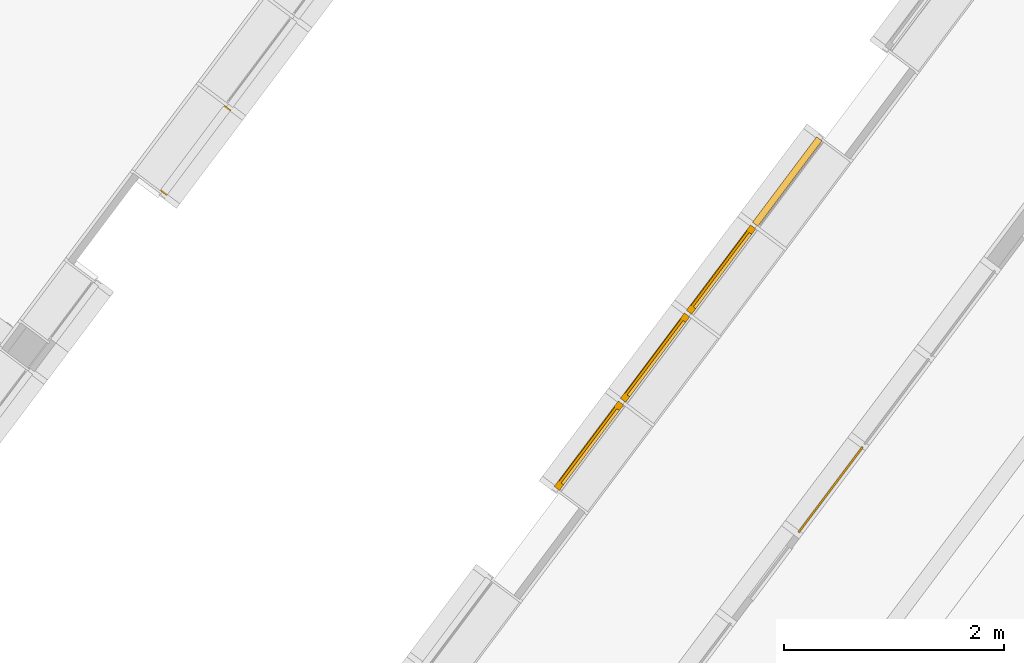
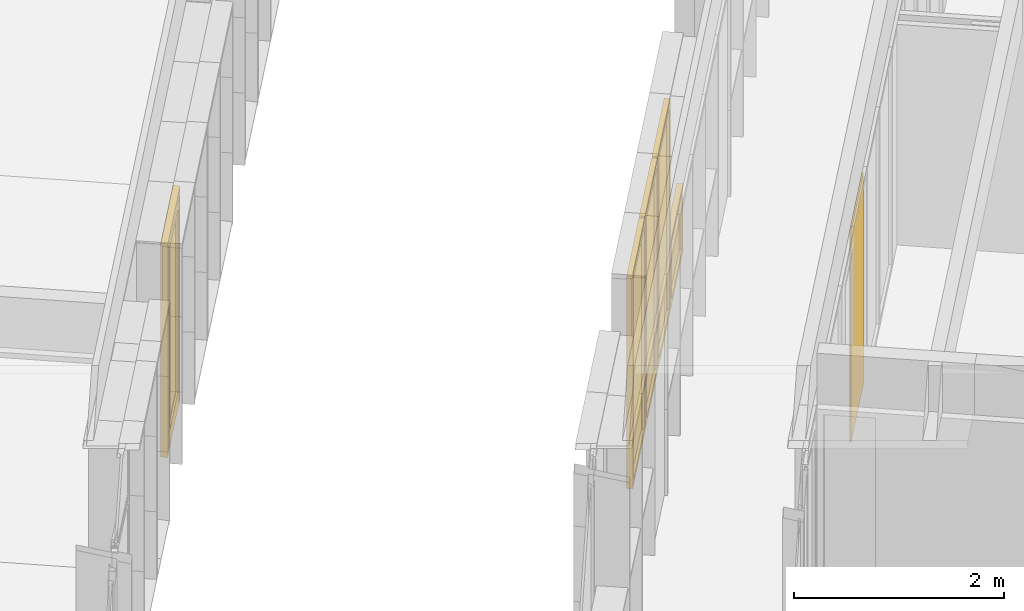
# One storey, part 183 of 243: 5 windows, 1 door, 3 elements without a shape of their own.
"""IFC2X3 building model written with IfcOpenShell, lengths in metres."""

import ifcopenshell
import ifcopenshell.guid

model = None  # the IFC model being written
_history = None  # IfcOwnerHistory: only IFC2X3 demands one
_inside = {}  # id of a spatial element -> (the spatial element, [elements in it])
_under = {}  # id of a project, library or spatial element -> (it, [spatial elements below it])
_declared = {}  # id of a project -> (the project, [libraries it declares])
_typed = {}  # id of a type object -> (the type object, [elements of that type])
_made_of = {}  # id of a material, layer set ... -> (it, [elements and type objects made of it])


def new_model(schema):
    """Start an empty IFC model of exactly this schema.

    Asked for "IFC4X3", IfcOpenShell would pick the latest addendum, in which some entities
    have other attributes; the version numbers below select the first issue.
    IFC2X3 requires an IfcOwnerHistory on every rooted entity: one is made here for all.
    """
    global model, _history
    if schema == "IFC4X3":
        model = ifcopenshell.file(schema_version=(4, 3, 0, 0))
    else:
        model = ifcopenshell.file(schema=schema)
    _inside.clear()
    _under.clear()
    _declared.clear()
    _typed.clear()
    _made_of.clear()
    _history = None
    if model.schema == "IFC2X3":
        org = make("IfcOrganization", Name="unknown")
        user = make(
            "IfcPersonAndOrganization",
            ThePerson=make("IfcPerson", FamilyName="unknown"),
            TheOrganization=org,
        )
        app = make(
            "IfcApplication",
            ApplicationDeveloper=org,
            Version="unknown",
            ApplicationFullName="unknown",
            ApplicationIdentifier="unknown",
        )
        _history = make(
            "IfcOwnerHistory",
            OwningUser=user,
            OwningApplication=app,
            ChangeAction="ADDED",
            CreationDate=0,
        )
    return model


def make(cls, **values):
    """One entity of the class cls with the attributes given. An attribute that is None is left unset."""
    return model.create_entity(
        cls, **{name: value for name, value in values.items() if value is not None}
    )


def entity(cls, *values):
    """Any entity or typed value of the class cls, its attributes in the order of the schema. None: left unset."""
    e = model.create_entity(cls)
    for i, value in enumerate(values):
        if value is not None:
            e[i] = value
    return e


def rooted(cls, **values):
    """An entity with a GlobalId (a new one), such as an element, a storey or a relation."""
    return make(cls, GlobalId=ifcopenshell.guid.new(), OwnerHistory=_history, **values)


def si_unit(unit_type, name, prefix=None):
    """IfcSIUnit, for example si_unit("LENGTHUNIT", "METRE", prefix="MILLI")."""
    return make("IfcSIUnit", UnitType=unit_type, Prefix=prefix, Name=name)


def converted_unit(unit_type, name, factor, base, dimensions=None, offset=None):
    """IfcConversionBasedUnit, such as the inch: factor (a typed value) times the base unit."""
    return make(
        "IfcConversionBasedUnit"
        if offset is None
        else "IfcConversionBasedUnitWithOffset",
        ConversionOffset=offset,
        Dimensions=None
        if dimensions is None
        else entity("IfcDimensionalExponents", *dimensions),
        UnitType=unit_type,
        Name=name,
        ConversionFactor=make(
            "IfcMeasureWithUnit", ValueComponent=factor, UnitComponent=base
        ),
    )


def derived_unit(unit_type, elements):
    """IfcDerivedUnit: a product of units, each with its exponent."""
    return make(
        "IfcDerivedUnit",
        Elements=[
            make("IfcDerivedUnitElement", Unit=unit, Exponent=power)
            for unit, power in elements
        ],
        UnitType=unit_type,
    )


def assignment(units):
    """IfcUnitAssignment: the units of a project."""
    return None if units is None else make("IfcUnitAssignment", Units=units)


def point(xyz):
    """IfcCartesianPoint."""
    return None if xyz is None else make("IfcCartesianPoint", Coordinates=xyz)


def direction(xyz):
    """IfcDirection."""
    return None if xyz is None else make("IfcDirection", DirectionRatios=xyz)


def frame(location, z_axis=None, x_axis=None):
    """IfcAxis2Placement3D, a coordinate frame: its origin and axes. An axis left out is left unset."""
    return make(
        "IfcAxis2Placement3D",
        Location=point(location),
        Axis=direction(z_axis),
        RefDirection=direction(x_axis),
    )


def frame_2d(location, x_axis=None):
    """IfcAxis2Placement2D, a coordinate frame in the plane: its origin and x axis."""
    return make(
        "IfcAxis2Placement2D", Location=point(location), RefDirection=direction(x_axis)
    )


def origin():
    """The frame at (0, 0, 0) with its axes left unset."""
    return frame((0.0, 0.0, 0.0))


def origin_2d_with_axis():
    """The frame at (0, 0) in the plane with the x axis (1, 0) written out."""
    return frame_2d((0.0, 0.0), x_axis=(1.0, 0.0))


def place(relative_to, where):
    """IfcLocalPlacement: puts the frame where relative to a parent placement (None: the world)."""
    return make(
        "IfcLocalPlacement", PlacementRelTo=relative_to, RelativePlacement=where
    )


def context(
    kind, dimensions, precision=None, world=None, true_north=None, identifier=None
):
    """IfcGeometricRepresentationContext, for example the 3D "Model" context."""
    return make(
        "IfcGeometricRepresentationContext",
        ContextIdentifier=identifier,
        ContextType=kind,
        CoordinateSpaceDimension=dimensions,
        Precision=precision,
        WorldCoordinateSystem=world,
        TrueNorth=true_north,
    )


def subcontext(parent, identifier, kind, view, scale=None):
    """IfcGeometricRepresentationSubContext, for example "Body" below "Model"."""
    return make(
        "IfcGeometricRepresentationSubContext",
        ContextIdentifier=identifier,
        ContextType=kind,
        ParentContext=parent,
        TargetScale=scale,
        TargetView=view,
    )


def project(units=None, contexts=None):
    """IfcProject with its units and contexts."""
    return rooted(
        "IfcProject",
        Name="project",
        RepresentationContexts=contexts,
        UnitsInContext=assignment(units),
    )


def spatial(cls, under=None, at=None, **own):
    """A site, building, storey or space (cls), placed at a placement, below another one or the project."""
    s = rooted(cls, ObjectPlacement=at, **own)
    if under is not None:
        _under.setdefault(under.id(), (under, []))[1].append(s)
    return s


def profile(cls, at=None, kind="AREA", **sizes):
    """A parametric profile (cls). Its sizes go by their IFC names, for example OverallWidth=200.0."""
    return make(cls, ProfileType=kind, Position=at, **sizes)


def rectangle(**sizes):
    """IfcRectangleProfileDef."""
    return profile("IfcRectangleProfileDef", **sizes)


def extrude(swept, where, along, depth):
    """IfcExtrudedAreaSolid: the profile swept, set in the frame where, extruded along a direction by depth."""
    return make(
        "IfcExtrudedAreaSolid",
        SweptArea=swept,
        Position=where,
        ExtrudedDirection=direction(along),
        Depth=depth,
    )


def faces_of(points, faces, orient=None, outer=None):
    """IfcFace entities. A face is a list of loops; a loop is a list of indices into points, from 0.

    orient and outer hold one flag for each loop. By default every Orientation is true, the
    first loop of a face is its IfcFaceOuterBound and the others are IfcFaceBound.
    """
    made = []
    for i, loops in enumerate(faces):
        bounds = []
        for j, loop in enumerate(loops):
            is_outer = j == 0 if outer is None else outer[i][j]
            bounds.append(
                make(
                    "IfcFaceOuterBound" if is_outer else "IfcFaceBound",
                    Bound=make("IfcPolyLoop", Polygon=[points[k] for k in loop]),
                    Orientation=True if orient is None else orient[i][j],
                )
            )
        made.append(make("IfcFace", Bounds=bounds))
    return made


def faceted_brep(points, faces, orient=None, outer=None, voids=None):
    """IfcFacetedBrep: a solid bounded by flat faces; with voids (closed shells), ...WithVoids."""
    shared = [point(p) for p in points]
    hull = make("IfcClosedShell", CfsFaces=faces_of(shared, faces, orient, outer))
    if voids is None:
        return make("IfcFacetedBrep", Outer=hull)
    return make(
        "IfcFacetedBrepWithVoids",
        Outer=hull,
        Voids=[
            make(cls, CfsFaces=faces_of(shared, fs, o, b)) for cls, fs, o, b in voids
        ],
    )


def shape(context_of_items, identifier, shape_type, items):
    """IfcShapeRepresentation: the items that make up one representation, for example the "Body"."""
    return make(
        "IfcShapeRepresentation",
        ContextOfItems=context_of_items,
        RepresentationIdentifier=identifier,
        RepresentationType=shape_type,
        Items=items,
    )


def source(mapping_origin, context_of_items, identifier, shape_type, items):
    """IfcRepresentationMap: a shape defined once, which mapped items show again and again."""
    return make(
        "IfcRepresentationMap",
        MappingOrigin=mapping_origin,
        MappedRepresentation=shape(context_of_items, identifier, shape_type, items),
    )


def transform(
    local_origin,
    x_axis=None,
    y_axis=None,
    z_axis=None,
    scale=None,
    scale2=None,
    scale3=None,
    uniform=True,
):
    """IfcCartesianTransformationOperator3D, or its non-uniform kind. x_axis, y_axis, z_axis: its Axis1, 2, 3."""
    if uniform:
        return make(
            "IfcCartesianTransformationOperator3D",
            Axis1=direction(x_axis),
            Axis2=direction(y_axis),
            LocalOrigin=point(local_origin),
            Scale=scale,
            Axis3=direction(z_axis),
        )
    return make(
        "IfcCartesianTransformationOperator3DnonUniform",
        Axis1=direction(x_axis),
        Axis2=direction(y_axis),
        LocalOrigin=point(local_origin),
        Scale=scale,
        Axis3=direction(z_axis),
        Scale2=scale2,
        Scale3=scale3,
    )


def mapped(mapping_source, mapping_target):
    """IfcMappedItem: shows the shape of a source again, moved by a transform."""
    return make(
        "IfcMappedItem", MappingSource=mapping_source, MappingTarget=mapping_target
    )


def material(Name=None, Category=None):
    """IfcMaterial."""
    return make("IfcMaterial", Name=Name, Category=Category)


def material_list(materials):
    """IfcMaterialList."""
    return make("IfcMaterialList", Materials=materials)


def made_of(thing, what):
    """Note that an element or type object is made of a material, layer set ...; save() writes the relation."""
    if what is not None:
        _made_of.setdefault(what.id(), (what, []))[1].append(thing)
    return thing


def type_object(cls, material=None, **own):
    """A type object (cls), such as IfcWallType, which elements share."""
    return made_of(rooted(cls, **own), material)


def type_shapes(of_type, sources):
    """Give a type object the sources (RepresentationMaps) that its elements show as mapped items."""
    of_type.RepresentationMaps = sources


def element(
    cls,
    number,
    at=None,
    inside=None,
    cuts=None,
    type_object=None,
    material=None,
    context=None,
    identifier="Body",
    shape_type=None,
    held_by="IfcProductDefinitionShape",
    body=None,
    shapes=None,
    **own,
):
    """One element of the class cls, such as IfcWall. Its Tag is "e" and its number.

    at: its placement. inside: the storey or other place that contains it. cuts: it is an
    opening in that element (IfcRelVoidsElement). A single representation is given by context,
    identifier, shape_type and body (its items); several are given by shapes. held_by: the class
    of the entity that holds the representations. save() writes the other relations.
    """
    e = rooted(cls, Tag="e%d" % number, ObjectPlacement=at, **own)
    if body is not None:
        shapes = [shape(context, identifier, shape_type, body)]
    if shapes is not None:
        e.Representation = make(held_by, Representations=shapes)
    if inside is not None:
        _inside.setdefault(inside.id(), (inside, []))[1].append(e)
    if cuts is not None:
        rooted(
            "IfcRelVoidsElement", RelatingBuildingElement=cuts, RelatedOpeningElement=e
        )
    if type_object is not None:
        _typed.setdefault(type_object.id(), (type_object, []))[1].append(e)
    return made_of(e, material)


def aggregate(whole, parts):
    """IfcRelAggregates: a whole, such as a stair, and the parts it consists of."""
    return rooted("IfcRelAggregates", RelatingObject=whole, RelatedObjects=parts)


def save(model, path):
    """Write the relations noted so far, then the file.

    IfcRelAggregates (storeys below a building ...), IfcRelContainedInSpatialStructure (elements
    in a storey), IfcRelDefinesByType, IfcRelAssociatesMaterial and IfcRelDeclares: one each for
    every whole, place, type object, material and project.
    """
    for whole, parts in _under.values():
        aggregate(whole, parts)
    for where, things in _inside.values():
        rooted(
            "IfcRelContainedInSpatialStructure",
            RelatedElements=things,
            RelatingStructure=where,
        )
    for kind, things in _typed.values():
        rooted("IfcRelDefinesByType", RelatedObjects=things, RelatingType=kind)
    for what, things in _made_of.values():
        rooted("IfcRelAssociatesMaterial", RelatedObjects=things, RelatingMaterial=what)
    for by, libraries in _declared.values():
        rooted("IfcRelDeclares", RelatingContext=by, RelatedDefinitions=libraries)
    model.write(path)


model = new_model("IFC2X3")

# Units and contexts
model_context = context("Model", 3, precision=1e-05, world=origin(), true_north=direction((6.123031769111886e-17, 1.0)))
body_context = subcontext(model_context, "Body", "Model", "MODEL_VIEW")
ifc_project = project(units=[si_unit("LENGTHUNIT", "METRE"), si_unit("AREAUNIT", "SQUARE_METRE"), si_unit("VOLUMEUNIT", "CUBIC_METRE"), converted_unit("PLANEANGLEUNIT", "DEGREE", entity("IfcRatioMeasure", 0.017453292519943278), si_unit("PLANEANGLEUNIT", "RADIAN"), dimensions=[0, 0, 0, 0, 0, 0, 0]), si_unit("MASSUNIT", "GRAM", prefix="KILO"), derived_unit("MASSDENSITYUNIT", [(si_unit("MASSUNIT", "GRAM", prefix="KILO"), 1), (si_unit("LENGTHUNIT", "METRE"), -3)]), derived_unit("IONCONCENTRATIONUNIT", [(si_unit("MASSUNIT", "GRAM", prefix="KILO"), 1), (si_unit("LENGTHUNIT", "METRE"), -3)]), derived_unit("MOMENTOFINERTIAUNIT", [(si_unit("LENGTHUNIT", "METRE"), 4)]), si_unit("TIMEUNIT", "SECOND"), si_unit("FREQUENCYUNIT", "HERTZ"), si_unit("THERMODYNAMICTEMPERATUREUNIT", "DEGREE_CELSIUS"), derived_unit("THERMALTRANSMITTANCEUNIT", [(si_unit("MASSUNIT", "GRAM", prefix="KILO"), 1), (si_unit("THERMODYNAMICTEMPERATUREUNIT", "KELVIN"), -1), (si_unit("TIMEUNIT", "SECOND"), -3)]), derived_unit("THERMALCONDUCTANCEUNIT", [(si_unit("MASSUNIT", "GRAM", prefix="KILO"), 1), (si_unit("THERMODYNAMICTEMPERATUREUNIT", "KELVIN"), -1), (si_unit("TIMEUNIT", "SECOND"), -3), (si_unit("LENGTHUNIT", "METRE"), 1)]), derived_unit("VOLUMETRICFLOWRATEUNIT", [(si_unit("LENGTHUNIT", "METRE"), 3), (si_unit("TIMEUNIT", "SECOND"), -1)]), derived_unit("MASSFLOWRATEUNIT", [(si_unit("MASSUNIT", "GRAM", prefix="KILO"), 1), (si_unit("TIMEUNIT", "SECOND"), -1)]), derived_unit("ROTATIONALFREQUENCYUNIT", [(si_unit("TIMEUNIT", "SECOND"), -1)]), si_unit("ELECTRICCURRENTUNIT", "AMPERE"), si_unit("ELECTRICVOLTAGEUNIT", "VOLT"), si_unit("POWERUNIT", "WATT"), si_unit("FORCEUNIT", "NEWTON", prefix="KILO"), si_unit("ILLUMINANCEUNIT", "LUX"), si_unit("LUMINOUSFLUXUNIT", "LUMEN"), si_unit("LUMINOUSINTENSITYUNIT", "CANDELA"), derived_unit("USERDEFINED", [(si_unit("MASSUNIT", "GRAM", prefix="KILO"), -1), (si_unit("LENGTHUNIT", "METRE"), -2), (si_unit("TIMEUNIT", "SECOND"), 3), (si_unit("LUMINOUSFLUXUNIT", "LUMEN"), 1)]), derived_unit("USERDEFINED", [(si_unit("MASSUNIT", "GRAM", prefix="KILO"), 1), (si_unit("TIMEUNIT", "SECOND"), -3), (si_unit("LENGTHUNIT", "METRE"), 3), (si_unit("ELECTRICCURRENTUNIT", "AMPERE"), -2)]), derived_unit("SOUNDPOWERUNIT", [(si_unit("MASSUNIT", "GRAM", prefix="KILO"), 1), (si_unit("TIMEUNIT", "SECOND"), -3), (si_unit("LENGTHUNIT", "METRE"), 2)]), derived_unit("SOUNDPRESSUREUNIT", [(si_unit("MASSUNIT", "GRAM", prefix="KILO"), 1), (si_unit("LENGTHUNIT", "METRE"), -1), (si_unit("TIMEUNIT", "SECOND"), -2)]), derived_unit("LINEARVELOCITYUNIT", [(si_unit("LENGTHUNIT", "METRE"), 1), (si_unit("TIMEUNIT", "SECOND"), -1)]), si_unit("PRESSUREUNIT", "PASCAL"), derived_unit("USERDEFINED", [(si_unit("MASSUNIT", "GRAM", prefix="KILO"), 1), (si_unit("LENGTHUNIT", "METRE"), -2), (si_unit("TIMEUNIT", "SECOND"), -2)]), derived_unit("LINEARFORCEUNIT", [(si_unit("MASSUNIT", "GRAM", prefix="KILO"), 1), (si_unit("TIMEUNIT", "SECOND"), -2)]), derived_unit("PLANARFORCEUNIT", [(si_unit("MASSUNIT", "GRAM", prefix="KILO"), 1), (si_unit("LENGTHUNIT", "METRE"), -1), (si_unit("TIMEUNIT", "SECOND"), -2)]), derived_unit("SPECIFICHEATCAPACITYUNIT", [(si_unit("THERMODYNAMICTEMPERATUREUNIT", "KELVIN"), -1), (si_unit("LENGTHUNIT", "METRE"), 2), (si_unit("TIMEUNIT", "SECOND"), -2)]), derived_unit("HEATINGVALUEUNIT", [(si_unit("LENGTHUNIT", "METRE"), 2), (si_unit("TIMEUNIT", "SECOND"), -2)]), derived_unit("VAPORPERMEABILITYUNIT", [(si_unit("LENGTHUNIT", "METRE"), -1), (si_unit("TIMEUNIT", "SECOND"), 1)]), derived_unit("DYNAMICVISCOSITYUNIT", [(si_unit("MASSUNIT", "GRAM", prefix="KILO"), 1), (si_unit("TIMEUNIT", "SECOND"), -1), (si_unit("LENGTHUNIT", "METRE"), -1)]), derived_unit("THERMALEXPANSIONCOEFFICIENTUNIT", [(si_unit("THERMODYNAMICTEMPERATUREUNIT", "KELVIN"), -1)]), derived_unit("MODULUSOFELASTICITYUNIT", [(si_unit("MASSUNIT", "GRAM", prefix="KILO"), 1), (si_unit("LENGTHUNIT", "METRE"), -1), (si_unit("TIMEUNIT", "SECOND"), -2)]), derived_unit("ISOTHERMALMOISTURECAPACITYUNIT", [(si_unit("LENGTHUNIT", "METRE"), 3), (si_unit("MASSUNIT", "GRAM", prefix="KILO"), -1)]), derived_unit("MOISTUREDIFFUSIVITYUNIT", [(si_unit("TIMEUNIT", "SECOND"), -1), (si_unit("LENGTHUNIT", "METRE"), 2)])], contexts=[model_context])

# Site, building, storey
site_placement = place(None, frame((0.0, 0.0, 235.0), z_axis=(0.0, 0.0, 1.0), x_axis=(-0.7996477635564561, 0.6004693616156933, 0.0)))
site = spatial("IfcSite", under=ifc_project, at=site_placement, Name="Default", CompositionType="ELEMENT")
building_placement = place(site_placement, origin())
building = spatial("IfcBuilding", under=site, at=building_placement, CompositionType="ELEMENT")
storey_placement = place(building_placement, origin())
storey = spatial("IfcBuildingStorey", under=building, at=storey_placement, Name="P0- Escola", CompositionType="ELEMENT", Elevation=0.0)

# Curtain wall, window
curtain_wall_type_1 = type_object("IfcCurtainWallType", Name="Muro cortina:MC- INT- a1", PredefinedType="NOTDEFINED")
curtain_wall_1_placement = place(storey_placement, origin())
curtain_wall_1 = element("IfcCurtainWall", 1, at=curtain_wall_1_placement, inside=storey, type_object=curtain_wall_type_1, Name="Muro cortina:MC- INT- a1", ObjectType="Muro cortina:MC- INT- a1")
ifc_material_1 = material(Name="_Vidre")
window_style_1 = type_object("IfcWindowStyle", Name="MC- Fusta- vidre fix:MC- Fusta- vidre fix", ConstructionType="NOTDEFINED", OperationType="NOTDEFINED", ParameterTakesPrecedence=False, Sizeable=False, material=ifc_material_1)
shared_shape_1 = source(origin(), body_context, "Body", "SweptSolid", [
    extrude(rectangle(XDim=0.9699999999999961, YDim=0.015999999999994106, at=origin_2d_with_axis()), frame((0.0, 0.0, 0.0), z_axis=(0.0, 0.0, 1.0), x_axis=(-1.0, 0.0, 0.0)), (0.0, 0.0, 1.0), 2.46),
])
type_shapes(window_style_1, [shared_shape_1])
window_1_placement = place(curtain_wall_1_placement, frame((60.02014768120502, -26.915189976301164, 0.045000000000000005), z_axis=(0.0, 0.0, 1.0), x_axis=(0.0, -1.0, 0.0)))
window_1 = element("IfcWindow", 2, at=window_1_placement, type_object=window_style_1, material=ifc_material_1, Name="MC- Fusta- vidre fix:MC- Fusta- vidre fix", ObjectType="MC- Fusta- vidre fix:MC- Fusta- vidre fix", OverallHeight=2.46, OverallWidth=0.9699999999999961, context=body_context, shape_type="MappedRepresentation", body=[
    mapped(shared_shape_1, transform((0.0, 0.0, 0.0), scale=1.0)),
])
aggregate(curtain_wall_1, [window_1])

# Curtain wall, door
curtain_wall_type_2 = type_object("IfcCurtainWallType", Name="Muro cortina:MC- EXT- MC2", PredefinedType="NOTDEFINED")
curtain_wall_2_placement = place(storey_placement, origin())
curtain_wall_2 = element("IfcCurtainWall", 3, at=curtain_wall_2_placement, inside=storey, type_object=curtain_wall_type_2, Name="Muro cortina:MC- EXT- MC2", ObjectType="Muro cortina:MC- EXT- MC2")
ifc_material_2 = material(Name="_Alumini- T1- Perfil")
ifc_material_list_1 = material_list([ifc_material_2, ifc_material_1])
door_style = type_object("IfcDoorStyle", Name="MC- Alu- Conjunt porta- 70x60 cm- +15cm- obertura int:MC- Alu- Conjunt porta- 70x60 cm- +15cm- obertura int", ConstructionType="NOTDEFINED", OperationType="NOTDEFINED", ParameterTakesPrecedence=False, Sizeable=False, material=ifc_material_list_1)
shared_shape_2 = source(origin(), body_context, "Body", "Brep", [
    faceted_brep([(0.411699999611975, 0.0, 0.024000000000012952), (0.411699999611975, -0.0656997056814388, 0.024000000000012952), (-0.41169999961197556, -0.06569970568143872, 0.024000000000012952), (-0.41169999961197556, 0.0, 0.024000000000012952), (0.41169999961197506, -0.0656997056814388, 2.410449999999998), (0.41169999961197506, 0.0, 2.410449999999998), (-0.41169999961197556, -0.06569970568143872, 2.410449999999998), (-0.4356999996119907, -0.06569970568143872, 0.0), (-0.4356999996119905, -0.06569970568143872, 2.4344500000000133), (0.4356999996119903, -0.06569970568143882, 2.4344500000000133), (0.4356999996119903, -0.0656997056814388, 0.0), (-0.41169999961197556, 0.0, 2.410449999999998), (0.33509999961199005, 0.0, 2.333850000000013), (-0.33509999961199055, 0.0, 2.3338500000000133), (-0.33509999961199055, 0.0, 0.20400000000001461), (0.33509999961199, 0.0, 0.20400000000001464), (-0.4356999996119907, -0.06999970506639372, 2.4344500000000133), (-0.4356999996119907, -0.0699997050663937, 0.0), (0.4356999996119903, -0.06999970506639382, 0.0), (0.43569999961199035, -0.06999970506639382, 2.4344500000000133), (-0.33509999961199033, -0.06999970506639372, 2.333850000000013), (0.33509999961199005, -0.06999970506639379, 2.333850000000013), (0.33509999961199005, -0.0699997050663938, 0.20400000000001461), (-0.33509999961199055, -0.06999970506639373, 0.20400000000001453), (-0.3350999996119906, -0.06449970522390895, 2.333850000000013), (-0.3350999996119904, -0.06449970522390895, 0.20400000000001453), (0.33509999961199, -0.06449970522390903, 0.20400000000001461), (0.33509999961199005, -0.06449970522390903, 2.333850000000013), (-0.36010000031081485, -0.06449970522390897, 2.3588500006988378), (0.3601000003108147, -0.06449970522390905, 2.3588500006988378), (0.3601000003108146, -0.06449970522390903, 0.17899999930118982), (-0.36010000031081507, -0.06449970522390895, 0.17899999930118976), (-0.3601000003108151, -0.018999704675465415, 2.3588500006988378), (-0.36010000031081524, -0.01899970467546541, 0.17899999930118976), (0.36010000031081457, -0.01899970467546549, 0.17899999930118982), (0.36010000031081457, -0.01899970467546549, 2.3588500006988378), (-0.33509999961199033, -0.018999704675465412, 2.333850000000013), (0.33509999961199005, -0.018999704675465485, 2.333850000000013), (0.33509999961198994, -0.01899970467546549, 0.20400000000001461), (-0.33509999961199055, -0.018999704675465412, 0.20400000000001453)], [[[0, 1, 2, 3]], [[4, 1, 0, 5]], [[2, 1, 4, 6], [7, 8, 9, 10]], [[2, 6, 11, 3]], [[12, 13, 14, 15], [11, 5, 0, 3]], [[16, 8, 7, 17]], [[10, 18, 17, 7]], [[18, 19, 16, 17], [20, 21, 22, 23]], [[24, 20, 23, 25]], [[23, 22, 26, 25]], [[27, 24, 25, 26], [28, 29, 30, 31]], [[32, 28, 31, 33]], [[33, 31, 30, 34]], [[35, 32, 33, 34], [36, 37, 38, 39]], [[13, 36, 39, 14]], [[39, 38, 15, 14]], [[9, 19, 18, 10]], [[21, 27, 26, 22]], [[29, 35, 34, 30]], [[37, 12, 15, 38]], [[19, 9, 8, 16]], [[27, 21, 20, 24]], [[35, 29, 28, 32]], [[12, 37, 36, 13]], [[4, 5, 11, 6]]], outer=[[True], [True], [False, True], [True], [False, True], [True], [True], [True, False], [True], [True], [False, True], [True], [True], [True, False], [True], [True], [True], [True], [True], [True], [True], [True], [True], [True], [True]]),
    faceted_brep([(-0.36010000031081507, -0.06089980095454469, 0.17899999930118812), (-0.36010000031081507, -0.02889980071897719, 0.17899999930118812), (0.3601000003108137, -0.028899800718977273, 0.17899999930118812), (0.3601000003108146, -0.06089980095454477, 0.17899999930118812), (-0.36010000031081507, -0.06089980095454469, 2.3588500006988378), (-0.36010000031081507, -0.028899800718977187, 2.3588500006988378), (0.3601000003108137, -0.028899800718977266, 2.3588500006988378), (0.3601000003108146, -0.06089980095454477, 2.3588500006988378)], [[[0, 1, 2, 3]], [[4, 5, 1, 0]], [[5, 6, 2, 1]], [[6, 7, 3, 2]], [[7, 4, 0, 3]], [[4, 7, 6, 5]]]),
    faceted_brep([(0.4849999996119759, -0.06999999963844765, 0.0), (0.44369999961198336, -0.06999999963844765, 0.0), (0.44369999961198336, -0.059699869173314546, 0.0), (0.4331999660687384, -0.059699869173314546, 0.0), (0.4331999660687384, -0.008800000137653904, 0.0), (0.4176999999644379, -0.008800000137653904, 0.0), (0.4176999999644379, 0.0, 0.0), (0.4849999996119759, 0.0, 0.0), (0.4849999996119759, -0.06999999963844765, 2.4837499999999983), (-0.4849999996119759, -0.06999999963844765, 2.4837499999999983), (-0.4849999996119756, -0.06999999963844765, 0.0), (-0.4436999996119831, -0.06999999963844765, 0.0), (-0.4436999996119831, -0.06999999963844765, 2.442450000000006), (0.44369999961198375, -0.06999999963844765, 2.4424500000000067), (0.44369999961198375, -0.059699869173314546, 2.4424500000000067), (-0.44369999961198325, -0.059699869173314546, 2.442450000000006), (-0.44369999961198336, -0.059699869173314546, 0.0), (-0.4331999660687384, -0.059699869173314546, 0.0), (-0.4331999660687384, -0.059699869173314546, 2.4319499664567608), (0.4331999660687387, -0.059699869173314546, 2.431949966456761), (0.4331999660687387, -0.008800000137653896, 2.431949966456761), (-0.4331999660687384, -0.008800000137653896, 2.4319499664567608), (-0.4331999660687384, -0.008800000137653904, 0.0), (-0.4176999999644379, -0.008800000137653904, 0.0), (-0.4176999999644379, -0.008800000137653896, 2.4164500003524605), (0.417699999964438, -0.008800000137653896, 2.4164500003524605), (0.417699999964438, 0.0, 2.4164500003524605), (-0.4176999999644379, 0.0, 2.4164500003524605), (-0.4176999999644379, 0.0, 0.0), (-0.4849999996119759, 0.0, 0.0), (-0.4849999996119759, 0.0, 2.4837499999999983), (0.48499999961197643, 0.0, 2.4837499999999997)], [[[0, 1, 2, 3, 4, 5, 6, 7]], [[1, 0, 8, 9, 10, 11, 12, 13]], [[2, 1, 13, 14]], [[3, 2, 14, 15, 16, 17, 18, 19]], [[4, 3, 19, 20]], [[5, 4, 20, 21, 22, 23, 24, 25]], [[6, 5, 25, 26]], [[7, 6, 26, 27, 28, 29, 30, 31]], [[0, 7, 31, 8]], [[10, 29, 28, 23, 22, 17, 16, 11]], [[9, 30, 29, 10]], [[27, 24, 23, 28]], [[21, 18, 17, 22]], [[15, 12, 11, 16]], [[14, 13, 12, 15]], [[20, 19, 18, 21]], [[26, 25, 24, 27]], [[8, 31, 30, 9]]]),
])
type_shapes(door_style, [shared_shape_2])
door_placement = place(curtain_wall_2_placement, frame((66.44514768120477, -25.91519175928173, 0.020000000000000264), z_axis=(0.0, 0.0, 1.0), x_axis=(0.0, 1.0, 0.0)))
door = element("IfcDoor", 4, at=door_placement, type_object=door_style, material=ifc_material_list_1, Name="MC- Alu- Conjunt porta- 70x60 cm- +15cm- obertura int:MC- Alu- Conjunt porta- 70x60 cm- +15cm- obertura int", ObjectType="MC- Alu- Conjunt porta- 70x60 cm- +15cm- obertura int:MC- Alu- Conjunt porta- 70x60 cm- +15cm- obertura int", OverallHeight=2.483750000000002, OverallWidth=0.9699999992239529, context=body_context, shape_type="MappedRepresentation", body=[
    mapped(shared_shape_2, transform((0.0, 0.0, 0.0), scale=1.0)),
])
aggregate(curtain_wall_2, [door])

# Curtain wall, windows
curtain_wall_type_3 = type_object("IfcCurtainWallType", Name="Muro cortina:MC- EXT- MC5", PredefinedType="NOTDEFINED")
curtain_wall_3_placement = place(storey_placement, origin())
curtain_wall_3 = element("IfcCurtainWall", 5, at=curtain_wall_3_placement, inside=storey, type_object=curtain_wall_type_3, Name="Muro cortina:MC- EXT- MC5", ObjectType="Muro cortina:MC- EXT- MC5")
ifc_material_list_2 = material_list([ifc_material_1, ifc_material_2])
window_style_2 = type_object("IfcWindowStyle", Name="MC- Alu- Conjunt vidre fix- 62x60 cm:MC- Alu- Conjunt vidre fix- 62x60 cm", ConstructionType="NOTDEFINED", OperationType="NOTDEFINED", ParameterTakesPrecedence=False, Sizeable=False, material=ifc_material_list_2)
shared_shape_3 = source(origin(), body_context, "Body", "Brep", [
    faceted_brep([(-0.43619328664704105, -0.007600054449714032, 0.048806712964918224), (0.43619328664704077, -0.007600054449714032, 0.048806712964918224), (0.43619328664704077, -0.03160022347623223, 0.048806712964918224), (-0.43619328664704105, -0.03160022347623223, 0.048806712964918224), (-0.43619328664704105, -0.007600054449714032, 2.422449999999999), (0.43619328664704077, -0.007600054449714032, 2.422449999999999), (0.43619328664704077, -0.03160022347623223, 2.422449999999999), (-0.43619328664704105, -0.03160022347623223, 2.422449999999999)], [[[0, 1, 2, 3]], [[4, 5, 1, 0]], [[5, 6, 2, 1]], [[6, 7, 3, 2]], [[7, 4, 0, 3]], [[4, 7, 6, 5]]]),
    faceted_brep([(-0.4849999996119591, -0.05999999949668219, 2.471449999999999), (-0.4849999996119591, 0.0, 2.471449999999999), (-0.4849999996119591, 0.0, 0.0), (-0.48499999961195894, -0.05999999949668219, 0.0), (-0.4221931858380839, 0.0, 2.408643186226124), (-0.4221931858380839, 0.0, 0.06280681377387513), (0.42219318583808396, 0.0, 0.06280681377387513), (0.422193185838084, 0.0, 2.408643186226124), (0.4849999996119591, 0.0, 2.471449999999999), (0.4849999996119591, 0.0, 0.0), (0.48499999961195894, -0.05999999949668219, 0.0), (0.4849999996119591, -0.05999999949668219, 2.471449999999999), (0.42219603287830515, -0.05999999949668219, 2.408646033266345), (0.42219603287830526, -0.05999999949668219, 0.06280396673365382), (-0.42219603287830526, -0.05999999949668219, 0.06280396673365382), (-0.42219603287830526, -0.05999999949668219, 2.4086460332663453), (-0.42219603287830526, -0.03160022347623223, 2.4086460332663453), (-0.4221960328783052, -0.03160022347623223, 0.06280396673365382), (0.4221960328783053, -0.03160022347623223, 0.06280396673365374), (0.42219603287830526, -0.03160022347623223, 2.4086460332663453), (0.43619328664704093, -0.03160022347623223, 2.422643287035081), (0.43619328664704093, -0.03160022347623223, 0.048806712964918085), (-0.4361932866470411, -0.03160022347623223, 0.04880671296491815), (-0.43619328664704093, -0.03160022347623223, 2.422643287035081), (-0.43619328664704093, -0.007600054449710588, 2.422643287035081), (-0.4361932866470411, -0.007600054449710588, 0.04880671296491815), (0.43619328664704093, -0.007600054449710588, 0.048806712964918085), (0.43619328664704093, -0.007600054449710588, 2.422643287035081), (0.42219318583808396, -0.007600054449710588, 2.408643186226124), (0.42219318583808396, -0.007600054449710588, 0.06280681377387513), (-0.42219318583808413, -0.007600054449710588, 0.06280681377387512), (-0.4221931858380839, -0.007600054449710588, 2.408643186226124)], [[[0, 1, 2, 3]], [[4, 5, 6, 7], [8, 9, 2, 1]], [[3, 2, 9, 10]], [[0, 3, 10, 11], [12, 13, 14, 15]], [[16, 15, 14, 17]], [[17, 14, 13, 18]], [[16, 17, 18, 19], [20, 21, 22, 23]], [[24, 23, 22, 25]], [[25, 22, 21, 26]], [[24, 25, 26, 27], [28, 29, 30, 31]], [[4, 31, 30, 5]], [[5, 30, 29, 6]], [[10, 9, 8, 11]], [[18, 13, 12, 19]], [[26, 21, 20, 27]], [[6, 29, 28, 7]], [[11, 8, 1, 0]], [[19, 12, 15, 16]], [[27, 20, 23, 24]], [[7, 28, 31, 4]]], outer=[[True], [False, True], [True], [True, False], [True], [True], [False, True], [True], [True], [True, False], [True], [True], [True], [True], [True], [True], [True], [True], [True], [True]]),
])
type_shapes(window_style_2, [shared_shape_3])
window_2_placement = place(curtain_wall_3_placement, frame((62.04514768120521, -26.915191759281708, 0.03229999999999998), z_axis=(0.0, 0.0, 1.0), x_axis=(0.0, -1.0, 0.0)))
window_2 = element("IfcWindow", 6, at=window_2_placement, type_object=window_style_2, material=ifc_material_list_2, Name="MC- Alu- Conjunt vidre fix- 62x60 cm:MC- Alu- Conjunt vidre fix- 62x60 cm", ObjectType="MC- Alu- Conjunt vidre fix- 62x60 cm:MC- Alu- Conjunt vidre fix- 62x60 cm", OverallHeight=2.471449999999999, OverallWidth=0.9699999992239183, context=body_context, shape_type="MappedRepresentation", body=[
    mapped(shared_shape_3, transform((0.0, 0.0, 0.0), scale=1.0)),
])
window_3_placement = place(curtain_wall_3_placement, frame((62.04514768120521, -27.915191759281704, 0.03229999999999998), z_axis=(0.0, 0.0, 1.0), x_axis=(0.0, -1.0, 0.0)))
window_3 = element("IfcWindow", 7, at=window_3_placement, type_object=window_style_2, material=ifc_material_list_2, Name="MC- Alu- Conjunt vidre fix- 62x60 cm:MC- Alu- Conjunt vidre fix- 62x60 cm", ObjectType="MC- Alu- Conjunt vidre fix- 62x60 cm:MC- Alu- Conjunt vidre fix- 62x60 cm", OverallHeight=2.471449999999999, OverallWidth=0.9699999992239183, context=body_context, shape_type="MappedRepresentation", body=[
    mapped(shared_shape_3, transform((0.0, 0.0, 0.0), scale=1.0)),
])
window_style_3 = type_object("IfcWindowStyle", Name="MC- Alu- Conjunt vidre fix- 62x60 cm:MC- Alu- Conjunt vidre fix- 62x60 cm", ConstructionType="NOTDEFINED", OperationType="NOTDEFINED", ParameterTakesPrecedence=False, Sizeable=False, material=ifc_material_list_2)
shared_shape_4 = source(origin(), body_context, "Body", "Brep", [
    faceted_brep([(-0.43619328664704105, -0.007600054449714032, 0.048806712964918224), (0.43619328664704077, -0.007600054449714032, 0.048806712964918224), (0.43619328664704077, -0.03160022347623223, 0.048806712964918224), (-0.43619328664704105, -0.03160022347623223, 0.048806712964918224), (-0.43619328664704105, -0.007600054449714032, 0.7387000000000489), (0.43619328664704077, -0.007600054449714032, 0.7387000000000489), (0.43619328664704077, -0.03160022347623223, 0.7387000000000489), (-0.43619328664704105, -0.03160022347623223, 0.7387000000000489)], [[[0, 1, 2, 3]], [[4, 5, 1, 0]], [[5, 6, 2, 1]], [[6, 7, 3, 2]], [[7, 4, 0, 3]], [[4, 7, 6, 5]]]),
    faceted_brep([(-0.4849999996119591, -0.05999999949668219, 0.7877000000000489), (-0.4849999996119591, 0.0, 0.7877000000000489), (-0.4849999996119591, 0.0, 0.0), (-0.4849999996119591, -0.05999999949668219, 0.0), (-0.422193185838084, 0.0, 0.7248931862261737), (-0.4221931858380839, 0.0, 0.06280681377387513), (0.42219318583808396, 0.0, 0.06280681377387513), (0.42219318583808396, 0.0, 0.7248931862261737), (0.4849999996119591, 0.0, 0.7877000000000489), (0.4849999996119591, 0.0, 0.0), (0.4849999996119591, -0.05999999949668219, 0.0), (0.4849999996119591, -0.05999999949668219, 0.7877000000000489), (0.4221960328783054, -0.05999999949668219, 0.7248960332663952), (0.4221960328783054, -0.05999999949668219, 0.0628039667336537), (-0.4221960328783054, -0.05999999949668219, 0.0628039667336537), (-0.4221960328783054, -0.05999999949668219, 0.7248960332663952), (-0.4221960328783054, -0.03160022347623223, 0.7248960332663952), (-0.4221960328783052, -0.03160022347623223, 0.06280396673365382), (0.4221960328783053, -0.03160022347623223, 0.06280396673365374), (0.42219603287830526, -0.03160022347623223, 0.7248960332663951), (0.43619328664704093, -0.03160022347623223, 0.7388932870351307), (0.43619328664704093, -0.03160022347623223, 0.048806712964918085), (-0.43619328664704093, -0.03160022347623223, 0.04880671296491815), (-0.43619328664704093, -0.03160022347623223, 0.7388932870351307), (-0.43619328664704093, -0.007600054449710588, 0.7388932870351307), (-0.43619328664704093, -0.007600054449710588, 0.04880671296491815), (0.43619328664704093, -0.007600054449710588, 0.048806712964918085), (0.43619328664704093, -0.007600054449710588, 0.7388932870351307), (0.42219318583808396, -0.007600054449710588, 0.7248931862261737), (0.42219318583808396, -0.007600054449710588, 0.06280681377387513), (-0.42219318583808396, -0.007600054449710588, 0.06280681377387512), (-0.42219318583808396, -0.007600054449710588, 0.7248931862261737)], [[[0, 1, 2, 3]], [[4, 5, 6, 7], [8, 9, 2, 1]], [[3, 2, 9, 10]], [[0, 3, 10, 11], [12, 13, 14, 15]], [[16, 15, 14, 17]], [[17, 14, 13, 18]], [[16, 17, 18, 19], [20, 21, 22, 23]], [[24, 23, 22, 25]], [[25, 22, 21, 26]], [[24, 25, 26, 27], [28, 29, 30, 31]], [[4, 31, 30, 5]], [[5, 30, 29, 6]], [[10, 9, 8, 11]], [[18, 13, 12, 19]], [[26, 21, 20, 27]], [[6, 29, 28, 7]], [[11, 8, 1, 0]], [[19, 12, 15, 16]], [[27, 20, 23, 24]], [[7, 28, 31, 4]]], outer=[[True], [False, True], [True], [True, False], [True], [True], [False, True], [True], [True], [True, False], [True], [True], [True], [True], [True], [True], [True], [True], [True], [True]]),
])
type_shapes(window_style_3, [shared_shape_4])
window_4_placement = place(curtain_wall_3_placement, frame((62.045147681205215, -28.9151917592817, 0.03229999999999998), z_axis=(0.0, 0.0, 1.0), x_axis=(0.0, -1.0, 0.0)))
window_4 = element("IfcWindow", 8, at=window_4_placement, type_object=window_style_3, material=ifc_material_list_2, Name="MC- Alu- Conjunt vidre fix- 62x60 cm:MC- Alu- Conjunt vidre fix- 62x60 cm", ObjectType="MC- Alu- Conjunt vidre fix- 62x60 cm:MC- Alu- Conjunt vidre fix- 62x60 cm", OverallHeight=0.7877000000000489, OverallWidth=0.9699999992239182, context=body_context, shape_type="MappedRepresentation", body=[
    mapped(shared_shape_4, transform((0.0, 0.0, 0.0), scale=1.0)),
])
window_style_4 = type_object("IfcWindowStyle", Name="MC- Alu- Conjunt vidre fix- 62x60 cm:MC- Alu- Conjunt vidre fix- 62x60 cm", ConstructionType="NOTDEFINED", OperationType="NOTDEFINED", ParameterTakesPrecedence=False, Sizeable=False, material=ifc_material_list_2)
shared_shape_5 = source(origin(), body_context, "Body", "Brep", [
    faceted_brep([(0.43619328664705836, -0.007600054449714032, 0.048806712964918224), (0.43619328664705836, -0.03160022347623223, 0.048806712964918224), (-0.4361932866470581, -0.03160022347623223, 0.048806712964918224), (-0.4361932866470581, -0.007600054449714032, 0.048806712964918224), (0.43619328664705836, -0.007600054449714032, 2.422449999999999), (-0.4361932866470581, -0.007600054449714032, 2.422449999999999), (-0.4361932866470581, -0.03160022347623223, 2.422449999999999), (0.43619328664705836, -0.03160022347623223, 2.422449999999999)], [[[0, 1, 2, 3]], [[4, 0, 3, 5]], [[5, 3, 2, 6]], [[6, 2, 1, 7]], [[7, 1, 0, 4]], [[4, 5, 6, 7]]]),
    faceted_brep([(0.48499999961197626, -0.05999999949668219, 2.471449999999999), (0.48499999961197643, -0.05999999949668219, 0.0), (0.48499999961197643, 0.0, 0.0), (0.48499999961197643, 0.0, 2.471449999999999), (-0.48499999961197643, 0.0, 2.471449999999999), (-0.48499999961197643, 0.0, 0.0), (0.4221931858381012, 0.0, 2.408643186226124), (-0.4221931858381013, 0.0, 2.408643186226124), (-0.4221931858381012, 0.0, 0.06280681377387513), (0.4221931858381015, 0.0, 0.06280681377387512), (-0.48499999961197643, -0.05999999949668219, 0.0), (-0.4849999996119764, -0.05999999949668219, 2.471449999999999), (-0.4221960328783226, -0.05999999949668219, 2.4086460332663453), (0.4221960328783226, -0.05999999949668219, 2.4086460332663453), (0.4221960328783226, -0.05999999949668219, 0.06280396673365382), (-0.4221960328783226, -0.05999999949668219, 0.06280396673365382), (0.42219603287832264, -0.03160022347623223, 2.4086460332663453), (0.4221960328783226, -0.03160022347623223, 0.06280396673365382), (-0.4221960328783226, -0.03160022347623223, 0.06280396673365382), (-0.4221960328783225, -0.03160022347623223, 2.4086460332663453), (-0.43619328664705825, -0.03160022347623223, 2.422643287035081), (0.43619328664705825, -0.03160022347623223, 2.422643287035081), (0.43619328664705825, -0.03160022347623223, 0.048806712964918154), (-0.43619328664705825, -0.03160022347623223, 0.04880671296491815), (0.43619328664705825, -0.007600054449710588, 2.422643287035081), (0.4361932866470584, -0.007600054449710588, 0.04880671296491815), (-0.43619328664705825, -0.007600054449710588, 0.048806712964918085), (-0.43619328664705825, -0.007600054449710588, 2.422643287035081), (-0.4221931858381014, -0.007600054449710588, 2.408643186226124), (0.4221931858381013, -0.007600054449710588, 2.408643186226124), (0.4221931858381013, -0.007600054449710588, 0.06280681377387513), (-0.4221931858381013, -0.007600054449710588, 0.06280681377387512)], [[[0, 1, 2, 3]], [[4, 3, 2, 5], [6, 7, 8, 9]], [[1, 10, 5, 2]], [[0, 11, 10, 1], [12, 13, 14, 15]], [[16, 17, 14, 13]], [[17, 18, 15, 14]], [[16, 19, 18, 17], [20, 21, 22, 23]], [[24, 25, 22, 21]], [[25, 26, 23, 22]], [[24, 27, 26, 25], [28, 29, 30, 31]], [[6, 9, 30, 29]], [[9, 8, 31, 30]], [[10, 11, 4, 5]], [[18, 19, 12, 15]], [[26, 27, 20, 23]], [[8, 7, 28, 31]], [[11, 0, 3, 4]], [[19, 16, 13, 12]], [[27, 24, 21, 20]], [[7, 6, 29, 28]]], outer=[[True], [True, False], [True], [True, False], [True], [True], [False, True], [True], [True], [True, False], [True], [True], [True], [True], [True], [True], [True], [True], [True], [True]]),
])
type_shapes(window_style_4, [shared_shape_5])
window_5_placement = place(curtain_wall_3_placement, frame((62.04514768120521, -25.91519175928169, 0.03229999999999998), z_axis=(0.0, 0.0, 1.0), x_axis=(0.0, -1.0, 0.0)))
window_5 = element("IfcWindow", 9, at=window_5_placement, type_object=window_style_4, material=ifc_material_list_2, Name="MC- Alu- Conjunt vidre fix- 62x60 cm:MC- Alu- Conjunt vidre fix- 62x60 cm", ObjectType="MC- Alu- Conjunt vidre fix- 62x60 cm:MC- Alu- Conjunt vidre fix- 62x60 cm", OverallHeight=2.471449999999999, OverallWidth=0.969999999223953, context=body_context, shape_type="MappedRepresentation", body=[
    mapped(shared_shape_5, transform((0.0, 0.0, 0.0), scale=1.0)),
])
aggregate(curtain_wall_3, [window_5, window_2, window_3, window_4])

save(model, "model.ifc")
